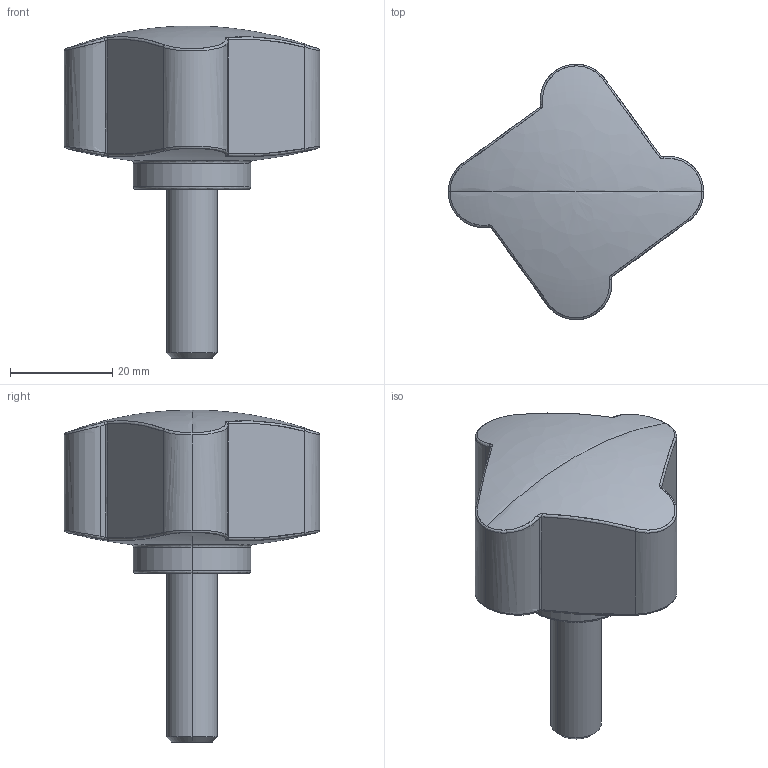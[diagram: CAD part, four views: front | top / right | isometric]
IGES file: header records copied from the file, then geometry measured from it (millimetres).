
Start section: SolidWorks IGES file using analytic representation for surfaces
Global section: file name: C:\Users\Marc\Documents\2 ENGINYERIA\Catalogo 3D\IGS STEP DXF\1120 50 501.IGS; native system: SolidWorks 2010; preprocessor: SolidWorks 2010; author: Marc; date: 101126.163247; units: millimetre
Bounding box: 50 x 50 x 65 mm (x, y, z)
Surface area: 8170.2 mm2 (no closed solid volume)
Topology: 0 solids, 0 shells, 66 faces, 767 edges, 766 vertices
Faces by surface type: bspline 41, revolution 25
